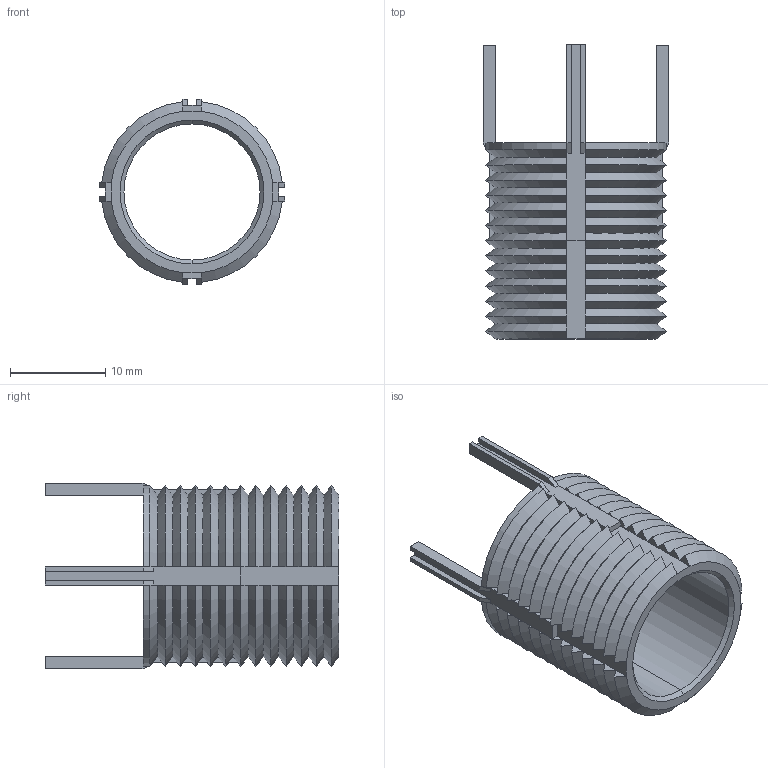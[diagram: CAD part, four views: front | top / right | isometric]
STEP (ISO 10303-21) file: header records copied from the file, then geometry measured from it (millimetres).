
FILE_DESCRIPTION (( 'STEP AP203' ), '1' );
FILE_NAME ('TR1565.66307.step', '2023-03-29T14:31:37', ( '' ), ( '' ), 'SwSTEP 2.0', 'SolidWorks 2019', '' );
FILE_SCHEMA (( 'CONFIG_CONTROL_DESIGN' ));
Length unit declared in the file: inch
Products named in the file (3): Part1_TR1565.66307; TR1565.66307; Part2_TR1565.66307
Assembly tree (5 placements, depth 2):
  TR1565.66307
    Part1_TR1565.66307
    Part2_TR1565.66307  x4
Bounding box: 19.5 x 30.86 x 19.5 mm (x, y, z)
Volume: 2029.2 mm3; surface area: 3467.2 mm2
Topology: 5 solids, 5 shells, 268 faces, 570 edges, 312 vertices
Faces by surface type: plane 158, cone 104, cylinder 6
Entity records: 7059 total; most frequent: CARTESIAN_POINT 2172, ORIENTED_EDGE 960, DIRECTION 876, EDGE_CURVE 480, AXIS2_PLACEMENT_3D 356, VERTEX_POINT 252, EDGE_LOOP 234, FACE_OUTER_BOUND 232
